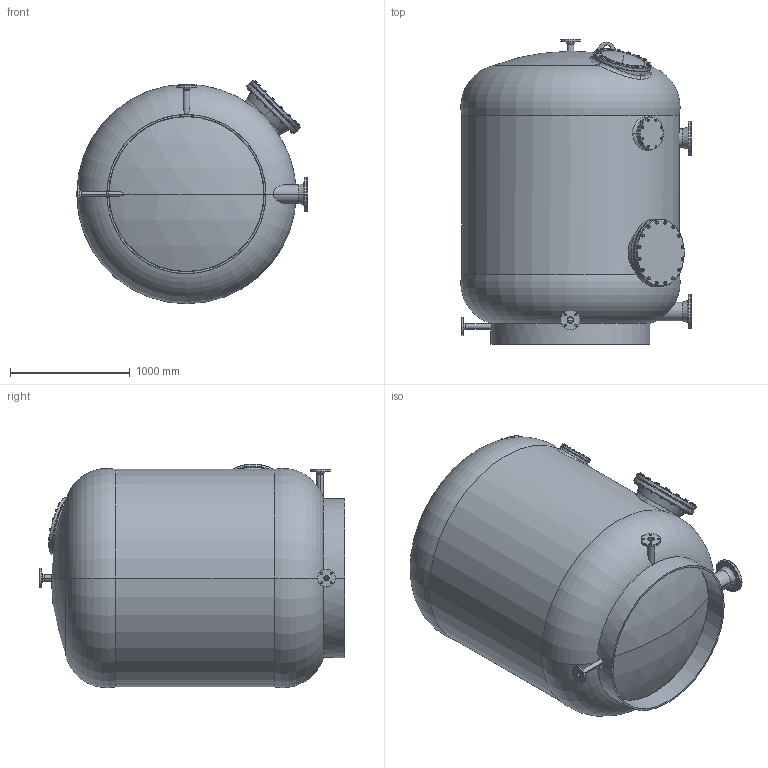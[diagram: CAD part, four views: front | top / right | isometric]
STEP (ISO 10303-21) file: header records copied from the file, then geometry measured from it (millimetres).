
FILE_DESCRIPTION (( 'STEP AP214' ), '1' );
FILE_NAME ('mediterran180c.STEP', '2020-11-03T13:16:42', ( '' ), ( '' ), 'SwSTEP 2.0', 'SolidWorks 2019', '' );
FILE_SCHEMA (( 'AUTOMOTIVE_DESIGN' ));
Length unit declared in the file: millimetre
Products named in the file (1): mediterran180c
Bounding box: 1927.27 x 2550.83 x 1868.96 mm (x, y, z)
Surface area: 36038478 mm2 (no closed solid volume)
Topology: 0 solids, 149 shells, 2166 faces, 4833 edges, 2955 vertices
Faces by surface type: cone 687, cylinder 687, plane 662, torus 111, bspline 10, sphere 9
Entity records: 105230 total; most frequent: CARTESIAN_POINT 32404, DIRECTION 10129, ORIENTED_EDGE 9466, EDGE_CURVE 4781, AXIS2_PLACEMENT_3D 4327, VERTEX_POINT 2955, EDGE_LOOP 2602, UNCERTAINTY_MEASURE_WITH_UNIT 2293
